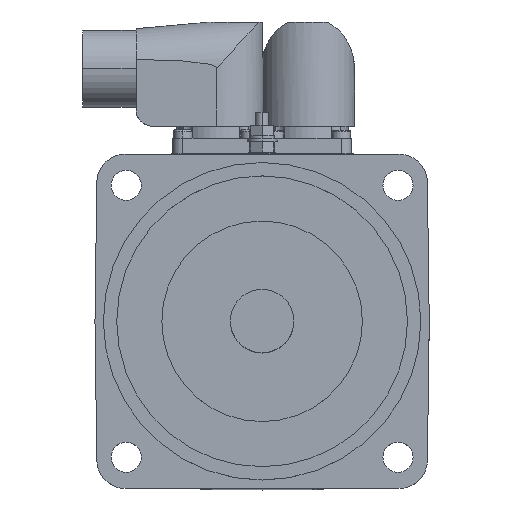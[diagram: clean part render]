
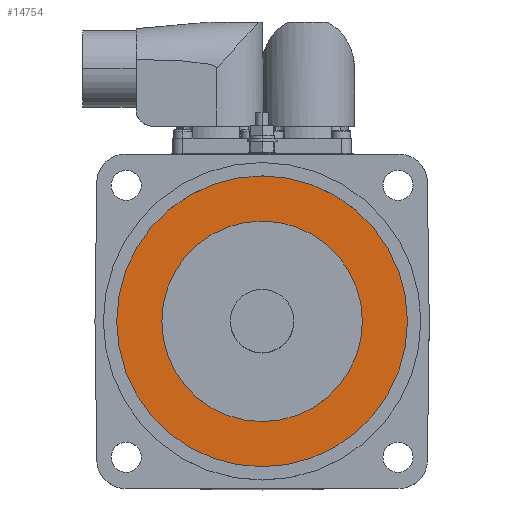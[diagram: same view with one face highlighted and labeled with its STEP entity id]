
A CAD part, top view. The second image highlights one B-rep face of the part: STEP entity #14754.
In plain terms, the highlighted planar face has unit normal (0, 0, 1).
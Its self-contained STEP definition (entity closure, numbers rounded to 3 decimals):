
#217 = CARTESIAN_POINT ( 'NONE',  ( 0., 43.5, 8. ) ) ;
#229 = PLANE ( 'NONE',  #11869 ) ;
#230 = DIRECTION ( 'NONE',  ( 0., 0., 1. ) ) ;
#231 = DIRECTION ( 'NONE',  ( 1., 0., 0. ) ) ;
#3924 = CARTESIAN_POINT ( 'NONE',  ( 0., 0., 8. ) ) ;
#3926 = DIRECTION ( 'NONE',  ( 0., 0., 1. ) ) ;
#3927 = DIRECTION ( 'NONE',  ( 1., 0., 0. ) ) ;
#3935 = CARTESIAN_POINT ( 'NONE',  ( 0., 0., 8. ) ) ;
#3936 = DIRECTION ( 'NONE',  ( 0., 0., 1. ) ) ;
#3937 = DIRECTION ( 'NONE',  ( 1., 0., 0. ) ) ;
#4594 = CIRCLE ( 'NONE', #12441, 43.5 ) ;
#4599 = CIRCLE ( 'NONE', #12438, 30. ) ;
#4840 = CIRCLE ( 'NONE', #12507, 30. ) ;
#4850 = CIRCLE ( 'NONE', #12511, 43.5 ) ;
#5365 = CARTESIAN_POINT ( 'NONE',  ( 0., 0., 8. ) ) ;
#5373 = DIRECTION ( 'NONE',  ( 0., 0., 1. ) ) ;
#5374 = DIRECTION ( 'NONE',  ( 1., 0., 0. ) ) ;
#5382 = CARTESIAN_POINT ( 'NONE',  ( 0., 0., 8. ) ) ;
#5389 = DIRECTION ( 'NONE',  ( 0., 0., 1. ) ) ;
#5390 = DIRECTION ( 'NONE',  ( 1., 0., 0. ) ) ;
#8783 = ORIENTED_EDGE ( 'NONE', *, *, #15782, .T. ) ;
#8784 = ORIENTED_EDGE ( 'NONE', *, *, #15619, .T. ) ;
#8785 = ORIENTED_EDGE ( 'NONE', *, *, #15623, .F. ) ;
#8786 = ORIENTED_EDGE ( 'NONE', *, *, #15776, .F. ) ;
#8922 = VERTEX_POINT ( 'NONE', #9353 ) ;
#8923 = VERTEX_POINT ( 'NONE', #9354 ) ;
#8926 = VERTEX_POINT ( 'NONE', #9357 ) ;
#8927 = VERTEX_POINT ( 'NONE', #9358 ) ;
#9353 = CARTESIAN_POINT ( 'NONE',  ( -43.5, 0., 8. ) ) ;
#9354 = CARTESIAN_POINT ( 'NONE',  ( 43.5, 0., 8. ) ) ;
#9357 = CARTESIAN_POINT ( 'NONE',  ( 30., 0., 8. ) ) ;
#9358 = CARTESIAN_POINT ( 'NONE',  ( -30., 0., 8. ) ) ;
#10438 = EDGE_LOOP ( 'NONE', ( #8783, #8784 ) ) ;
#11207 = EDGE_LOOP ( 'NONE', ( #8785, #8786 ) ) ;
#11869 = AXIS2_PLACEMENT_3D ( 'NONE', #217, #230, #231 ) ;
#12438 = AXIS2_PLACEMENT_3D ( 'NONE', #3935, #3936, #3937 ) ;
#12441 = AXIS2_PLACEMENT_3D ( 'NONE', #3924, #3926, #3927 ) ;
#12507 = AXIS2_PLACEMENT_3D ( 'NONE', #5365, #5373, #5374 ) ;
#12511 = AXIS2_PLACEMENT_3D ( 'NONE', #5382, #5389, #5390 ) ;
#13175 = FACE_BOUND ( 'NONE', #11207, .T. ) ;
#13178 = FACE_OUTER_BOUND ( 'NONE', #10438, .T. ) ;
#14754 = ADVANCED_FACE ( 'NONE', ( #13178, #13175 ), #229, .T. ) ;
#15619 = EDGE_CURVE ( 'NONE', #8922, #8923, #4594, .T. ) ;
#15623 = EDGE_CURVE ( 'NONE', #8926, #8927, #4599, .T. ) ;
#15776 = EDGE_CURVE ( 'NONE', #8927, #8926, #4840, .T. ) ;
#15782 = EDGE_CURVE ( 'NONE', #8923, #8922, #4850, .T. ) ;
